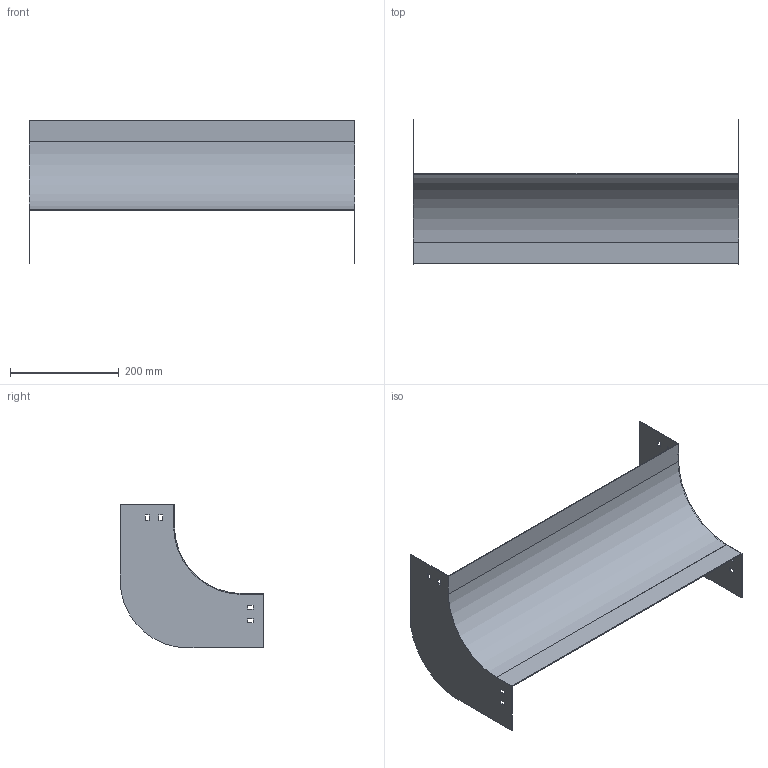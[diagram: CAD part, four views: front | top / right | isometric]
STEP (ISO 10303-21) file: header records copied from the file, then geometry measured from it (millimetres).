
FILE_DESCRIPTION (( 'STEP AP214' ), '1' );
FILE_NAME ('D9_601.step', '2025-07-16T09:09:22', ( '' ), ( '' ), 'SwSTEP 2.0', 'SolidWorks 2023', '' );
FILE_SCHEMA (( 'AUTOMOTIVE_DESIGN' ));
Length unit declared in the file: millimetre
Products named in the file (1): D9_601
Bounding box: 600 x 265 x 265 mm (x, y, z)
Volume: 376686 mm3; surface area: 506472.5 mm2
Topology: 1 solids, 1 shells, 50 faces, 144 edges, 96 vertices
Faces by surface type: plane 46, cylinder 4
Entity records: 1671 total; most frequent: CARTESIAN_POINT 291, ORIENTED_EDGE 288, DIRECTION 254, EDGE_CURVE 144, LINE 136, VECTOR 136, VERTEX_POINT 96, EDGE_LOOP 66
